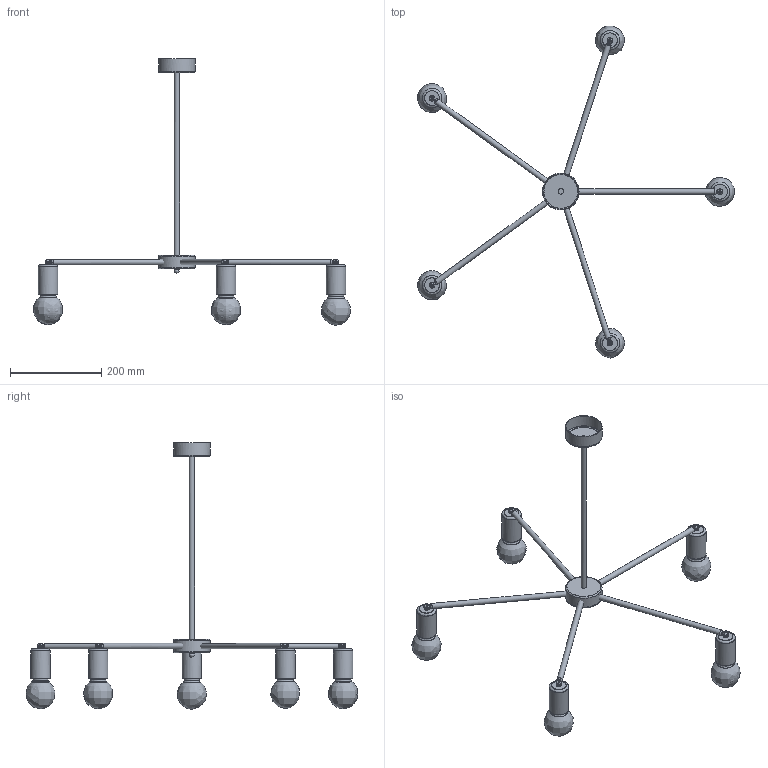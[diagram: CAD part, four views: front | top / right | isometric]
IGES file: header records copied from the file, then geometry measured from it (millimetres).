
Start section: SolidWorks IGES file using NURBS representation for surfaces
Global section: file name: Z:\Modele 3D_WWW\_KOLEKCJE_WWW\STICKS\STICKS-V-9735\STICKS-V-9735.IGS; native system: SolidWorks 2021; preprocessor: SolidWorks 2021; author: gabriela.tworek; date: 211123.063022; units: millimetre
Bounding box: 694.25 x 727.07 x 583.24 mm (x, y, z)
Surface area: 378181.5 mm2 (no closed solid volume)
Topology: 0 solids, 0 shells, 823 faces, 4203 edges, 3818 vertices
Faces by surface type: bspline 823
